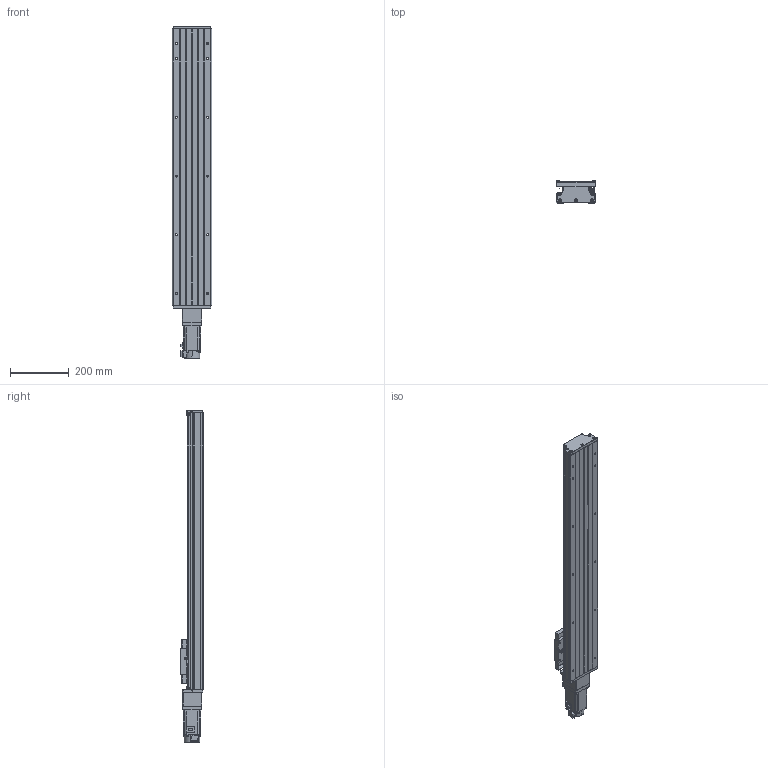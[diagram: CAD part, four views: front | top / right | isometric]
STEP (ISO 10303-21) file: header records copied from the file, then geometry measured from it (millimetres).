
FILE_DESCRIPTION (( 'STEP AP203' ), '1' );
FILE_NAME ('CTH130-750-BC-M40-C4.step', '2023-06-30T02:34:25', ( '微软用户' ), ( '微软中国' ), 'SwSTEP 2.0', 'SolidWorks 2020', '' );
FILE_SCHEMA (( 'CONFIG_CONTROL_DESIGN' ));
Length unit declared in the file: millimetre
Products named in the file (21): CTHA60-016; CTHA86-027-1; GTH14-004; GBT 70.1-M3℅5; GBT 70.3-M3℅8; GTH14-005; GBT77-2000 M3×3; HG-KN43J-S100; GB1155-6X6; CTH130-031; CTH130-750-BC-M40-C4; GBT70.1 M5℅16; GBT 70.2-M3¡Á5_M3¡Á6; す晦芛蹟隊 M3℅5; GTH14-001_750; CTHA60-017; CTHA86-006-1_M40; CTH130-002_GTH14-002; EE_SX911P_R; CTHA86-013; GB T308.1-2013-6.35
Assembly tree (59 placements, depth 2):
  CTH130-750-BC-M40-C4
    GTH14-001_750
    CTH130-002_GTH14-002
    GB T308.1-2013-6.35  x2
    GTH14-004
    GTH14-005
    GB1155-6X6  x2
    GBT70.1 M5℅16  x10
    CTHA60-017  x3
    EE_SX911P_R  x3
    CTHA60-016  x2
    GBT 70.1-M3℅5  x6
    GBT77-2000 M3×3  x6
    CTH130-031
    GBT 70.2-M3¡Á5_M3¡Á6  x8
    す晦芛蹟隊 M3℅5  x6
    CTHA86-006-1_M40
    CTHA86-013
    CTHA86-027-1
    GBT 70.3-M3℅8  x2
    HG-KN43J-S100
Bounding box: 135 x 76 x 1128.7 mm (x, y, z)
Volume: 5444118.2 mm3; surface area: 855639.6 mm2
Topology: 62 solids, 62 shells, 2390 faces, 5705 edges, 3535 vertices
Faces by surface type: plane 1305, cylinder 634, cone 287, torus 120, sphere 24, bspline 20
Entity records: 43988 total; most frequent: CARTESIAN_POINT 9855, DIRECTION 6391, ORIENTED_EDGE 6310, EDGE_CURVE 3155, AXIS2_PLACEMENT_3D 2167, VECTOR 2057, LINE 2057, VERTEX_POINT 1995
